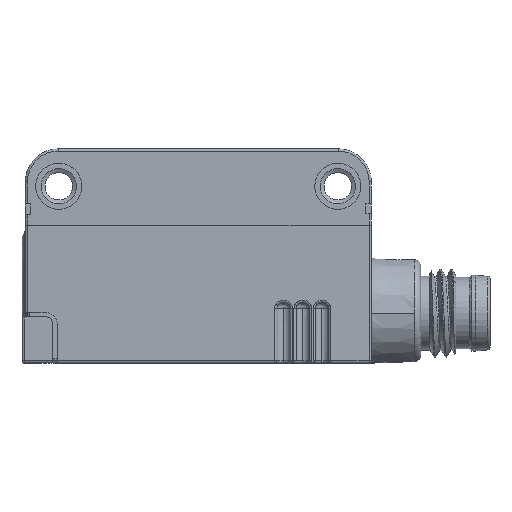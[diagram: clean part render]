
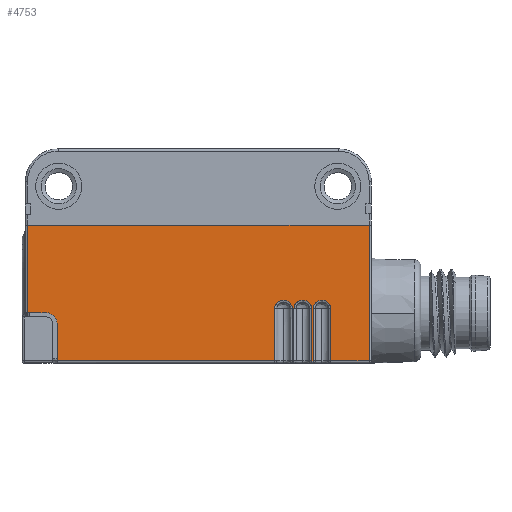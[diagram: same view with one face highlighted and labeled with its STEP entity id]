
A CAD part, left-side view. The second image highlights one B-rep face of the part: STEP entity #4753.
In plain terms, the highlighted planar face has unit normal (-1, 0, 0).
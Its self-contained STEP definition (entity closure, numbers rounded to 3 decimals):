
#760=B_SPLINE_CURVE_WITH_KNOTS('',3,(#61560,#61561,#61562,#61563,#61564,
#61565,#61566,#61567,#61568,#61569,#61570,#61571,#61572,#61573),
 .UNSPECIFIED.,.F.,.F.,(4,2,2,2,2,2,4),(0.,0.125,0.25,0.5,0.75,0.875,1.),
 .UNSPECIFIED.);
#763=B_SPLINE_CURVE_WITH_KNOTS('',3,(#61655,#61656,#61657,#61658,#61659,
#61660,#61661,#61662,#61663,#61664,#61665,#61666,#61667,#61668),
 .UNSPECIFIED.,.F.,.F.,(4,2,2,2,2,2,4),(0.,0.125,0.25,0.5,0.75,0.875,1.),
 .UNSPECIFIED.);
#766=B_SPLINE_CURVE_WITH_KNOTS('',3,(#61750,#61751,#61752,#61753,#61754,
#61755,#61756,#61757,#61758,#61759,#61760,#61761,#61762,#61763),
 .UNSPECIFIED.,.F.,.F.,(4,2,2,2,2,2,4),(0.,0.125,0.25,0.5,0.75,0.875,1.),
 .UNSPECIFIED.);
#3440=CIRCLE('',#42837,1309.533);
#3441=CIRCLE('',#42838,1.);
#4753=ADVANCED_FACE('',(#8107),#6682,.T.);
#6682=PLANE('',#42839);
#8107=FACE_OUTER_BOUND('',#10336,.T.);
#10336=EDGE_LOOP('',(#15704,#15705,#15706,#15707,#15708,#15709,#15710,#15711,
#15712,#15713,#15714,#15715,#15716,#15717,#15718,#15719,#15720,#15721,#15722));
#15704=ORIENTED_EDGE('',*,*,#29960,.F.);
#15705=ORIENTED_EDGE('',*,*,#29961,.F.);
#15706=ORIENTED_EDGE('',*,*,#29962,.F.);
#15707=ORIENTED_EDGE('',*,*,#29963,.T.);
#15708=ORIENTED_EDGE('',*,*,#29780,.T.);
#15709=ORIENTED_EDGE('',*,*,#29782,.T.);
#15710=ORIENTED_EDGE('',*,*,#29787,.T.);
#15711=ORIENTED_EDGE('',*,*,#29789,.T.);
#15712=ORIENTED_EDGE('',*,*,#29793,.T.);
#15713=ORIENTED_EDGE('',*,*,#29795,.T.);
#15714=ORIENTED_EDGE('',*,*,#29800,.T.);
#15715=ORIENTED_EDGE('',*,*,#29802,.T.);
#15716=ORIENTED_EDGE('',*,*,#29806,.T.);
#15717=ORIENTED_EDGE('',*,*,#29808,.T.);
#15718=ORIENTED_EDGE('',*,*,#29813,.T.);
#15719=ORIENTED_EDGE('',*,*,#29815,.T.);
#15720=ORIENTED_EDGE('',*,*,#29818,.T.);
#15721=ORIENTED_EDGE('',*,*,#29536,.F.);
#15722=ORIENTED_EDGE('',*,*,#29775,.T.);
#25371=VERTEX_POINT('',#60731);
#25372=VERTEX_POINT('',#60733);
#25422=VERTEX_POINT('',#61540);
#25423=VERTEX_POINT('',#61544);
#25424=VERTEX_POINT('',#61551);
#25426=VERTEX_POINT('',#61559);
#25427=VERTEX_POINT('',#61629);
#25428=VERTEX_POINT('',#61637);
#25429=VERTEX_POINT('',#61646);
#25431=VERTEX_POINT('',#61654);
#25432=VERTEX_POINT('',#61724);
#25433=VERTEX_POINT('',#61732);
#25434=VERTEX_POINT('',#61741);
#25436=VERTEX_POINT('',#61749);
#25437=VERTEX_POINT('',#61819);
#25438=VERTEX_POINT('',#61827);
#25440=VERTEX_POINT('',#62210);
#25441=VERTEX_POINT('',#62212);
#25442=VERTEX_POINT('',#62214);
#29536=EDGE_CURVE('',#25371,#25372,#34796,.T.);
#29775=EDGE_CURVE('',#25371,#25422,#34954,.T.);
#29780=EDGE_CURVE('',#25423,#25424,#34955,.T.);
#29782=EDGE_CURVE('',#25424,#25426,#760,.T.);
#29787=EDGE_CURVE('',#25426,#25427,#34956,.T.);
#29789=EDGE_CURVE('',#25427,#25428,#34957,.T.);
#29793=EDGE_CURVE('',#25428,#25429,#34958,.T.);
#29795=EDGE_CURVE('',#25429,#25431,#763,.T.);
#29800=EDGE_CURVE('',#25431,#25432,#34959,.T.);
#29802=EDGE_CURVE('',#25432,#25433,#34960,.T.);
#29806=EDGE_CURVE('',#25433,#25434,#34961,.T.);
#29808=EDGE_CURVE('',#25434,#25436,#766,.T.);
#29813=EDGE_CURVE('',#25436,#25437,#34962,.T.);
#29815=EDGE_CURVE('',#25437,#25438,#34963,.T.);
#29818=EDGE_CURVE('',#25438,#25372,#34964,.T.);
#29960=EDGE_CURVE('',#25440,#25422,#3440,.T.);
#29961=EDGE_CURVE('',#25441,#25440,#3441,.T.);
#29962=EDGE_CURVE('',#25442,#25441,#35099,.T.);
#29963=EDGE_CURVE('',#25442,#25423,#35100,.T.);
#34796=LINE('',#60732,#38621);
#34954=LINE('',#61541,#38779);
#34955=LINE('',#61552,#38780);
#34956=LINE('',#61634,#38781);
#34957=LINE('',#61638,#38782);
#34958=LINE('',#61647,#38783);
#34959=LINE('',#61729,#38784);
#34960=LINE('',#61733,#38785);
#34961=LINE('',#61742,#38786);
#34962=LINE('',#61824,#38787);
#34963=LINE('',#61828,#38788);
#34964=LINE('',#61833,#38789);
#35099=LINE('',#62213,#38924);
#35100=LINE('',#62215,#38925);
#38621=VECTOR('',#47115,1.);
#38779=VECTOR('',#47725,1.);
#38780=VECTOR('',#47736,1.);
#38781=VECTOR('',#47747,1.);
#38782=VECTOR('',#47752,1.);
#38783=VECTOR('',#47761,1.);
#38784=VECTOR('',#47772,1.);
#38785=VECTOR('',#47777,1.);
#38786=VECTOR('',#47786,1.);
#38787=VECTOR('',#47797,1.);
#38788=VECTOR('',#47802,1.);
#38789=VECTOR('',#47811,1.);
#38924=VECTOR('',#48230,1.);
#38925=VECTOR('',#48231,1.);
#42837=AXIS2_PLACEMENT_3D('',#62209,#48226,#48227);
#42838=AXIS2_PLACEMENT_3D('',#62211,#48228,#48229);
#42839=AXIS2_PLACEMENT_3D('',#62216,#48232,#48233);
#47115=DIRECTION('',(0.,-1.,0.));
#47725=DIRECTION('',(0.,0.,-1.));
#47736=DIRECTION('',(0.,0.,1.));
#47747=DIRECTION('',(0.,0.,-1.));
#47752=DIRECTION('',(0.,-1.,0.));
#47761=DIRECTION('',(0.,0.,1.));
#47772=DIRECTION('',(0.,0.,-1.));
#47777=DIRECTION('',(0.,-1.,0.));
#47786=DIRECTION('',(0.,0.,1.));
#47797=DIRECTION('',(0.,0.,-1.));
#47802=DIRECTION('',(0.,-1.,0.));
#47811=DIRECTION('',(0.,0.,1.));
#48226=DIRECTION('',(1.,0.,0.));
#48227=DIRECTION('',(0.,1.,0.));
#48228=DIRECTION('',(-1.,0.,0.));
#48229=DIRECTION('',(0.,-1.,0.));
#48230=DIRECTION('',(0.,0.,1.));
#48231=DIRECTION('',(0.,-1.,0.));
#48232=DIRECTION('',(-1.,0.,0.));
#48233=DIRECTION('',(0.,1.,0.));
#60731=CARTESIAN_POINT('',(-5.4,15.55,-6.95));
#60732=CARTESIAN_POINT('',(-5.4,0.,-6.95));
#60733=CARTESIAN_POINT('',(-5.4,-15.55,-6.95));
#61540=CARTESIAN_POINT('',(-5.4,15.55,-14.9));
#61541=CARTESIAN_POINT('',(-5.4,15.55,-10.15));
#61544=CARTESIAN_POINT('',(-5.4,-6.955,-19.3));
#61551=CARTESIAN_POINT('',(-5.4,-6.955,-14.5));
#61552=CARTESIAN_POINT('',(-5.4,-6.955,-16.9));
#61559=CARTESIAN_POINT('',(-5.4,-8.545,-14.5));
#61560=CARTESIAN_POINT('',(-5.4,-6.955,-14.5));
#61561=CARTESIAN_POINT('',(-5.4,-6.955,-14.4));
#61562=CARTESIAN_POINT('',(-5.4,-6.983,-14.303));
#61563=CARTESIAN_POINT('',(-5.4,-7.072,-14.127));
#61564=CARTESIAN_POINT('',(-5.4,-7.135,-14.048));
#61565=CARTESIAN_POINT('',(-5.4,-7.356,-13.852));
#61566=CARTESIAN_POINT('',(-5.4,-7.552,-13.777));
#61567=CARTESIAN_POINT('',(-5.4,-7.947,-13.777));
#61568=CARTESIAN_POINT('',(-5.4,-8.143,-13.85));
#61569=CARTESIAN_POINT('',(-5.4,-8.366,-14.048));
#61570=CARTESIAN_POINT('',(-5.4,-8.427,-14.126));
#61571=CARTESIAN_POINT('',(-5.4,-8.517,-14.303));
#61572=CARTESIAN_POINT('',(-5.4,-8.545,-14.4));
#61573=CARTESIAN_POINT('',(-5.4,-8.545,-14.5));
#61629=CARTESIAN_POINT('',(-5.4,-8.545,-19.3));
#61634=CARTESIAN_POINT('',(-5.4,-8.545,-16.9));
#61637=CARTESIAN_POINT('',(-5.4,-8.705,-19.3));
#61638=CARTESIAN_POINT('',(-5.4,-8.625,-19.3));
#61646=CARTESIAN_POINT('',(-5.4,-8.705,-14.5));
#61647=CARTESIAN_POINT('',(-5.4,-8.705,-16.9));
#61654=CARTESIAN_POINT('',(-5.4,-10.295,-14.5));
#61655=CARTESIAN_POINT('',(-5.4,-8.705,-14.5));
#61656=CARTESIAN_POINT('',(-5.4,-8.705,-14.4));
#61657=CARTESIAN_POINT('',(-5.4,-8.733,-14.303));
#61658=CARTESIAN_POINT('',(-5.4,-8.822,-14.127));
#61659=CARTESIAN_POINT('',(-5.4,-8.885,-14.048));
#61660=CARTESIAN_POINT('',(-5.4,-9.106,-13.852));
#61661=CARTESIAN_POINT('',(-5.4,-9.302,-13.777));
#61662=CARTESIAN_POINT('',(-5.4,-9.697,-13.777));
#61663=CARTESIAN_POINT('',(-5.4,-9.893,-13.85));
#61664=CARTESIAN_POINT('',(-5.4,-10.116,-14.048));
#61665=CARTESIAN_POINT('',(-5.4,-10.177,-14.126));
#61666=CARTESIAN_POINT('',(-5.4,-10.267,-14.303));
#61667=CARTESIAN_POINT('',(-5.4,-10.295,-14.4));
#61668=CARTESIAN_POINT('',(-5.4,-10.295,-14.5));
#61724=CARTESIAN_POINT('',(-5.4,-10.295,-19.3));
#61729=CARTESIAN_POINT('',(-5.4,-10.295,-16.9));
#61732=CARTESIAN_POINT('',(-5.4,-10.455,-19.3));
#61733=CARTESIAN_POINT('',(-5.4,-10.375,-19.3));
#61741=CARTESIAN_POINT('',(-5.4,-10.455,-14.5));
#61742=CARTESIAN_POINT('',(-5.4,-10.455,-16.9));
#61749=CARTESIAN_POINT('',(-5.4,-12.045,-14.5));
#61750=CARTESIAN_POINT('',(-5.4,-10.455,-14.5));
#61751=CARTESIAN_POINT('',(-5.4,-10.455,-14.4));
#61752=CARTESIAN_POINT('',(-5.4,-10.483,-14.303));
#61753=CARTESIAN_POINT('',(-5.4,-10.572,-14.127));
#61754=CARTESIAN_POINT('',(-5.4,-10.635,-14.048));
#61755=CARTESIAN_POINT('',(-5.4,-10.856,-13.852));
#61756=CARTESIAN_POINT('',(-5.4,-11.052,-13.777));
#61757=CARTESIAN_POINT('',(-5.4,-11.447,-13.777));
#61758=CARTESIAN_POINT('',(-5.4,-11.643,-13.85));
#61759=CARTESIAN_POINT('',(-5.4,-11.866,-14.048));
#61760=CARTESIAN_POINT('',(-5.4,-11.927,-14.126));
#61761=CARTESIAN_POINT('',(-5.4,-12.017,-14.303));
#61762=CARTESIAN_POINT('',(-5.4,-12.045,-14.4));
#61763=CARTESIAN_POINT('',(-5.4,-12.045,-14.5));
#61819=CARTESIAN_POINT('',(-5.4,-12.045,-19.3));
#61824=CARTESIAN_POINT('',(-5.4,-12.045,-16.9));
#61827=CARTESIAN_POINT('',(-5.4,-15.55,-19.3));
#61828=CARTESIAN_POINT('',(-5.4,-13.798,-19.3));
#61833=CARTESIAN_POINT('',(-5.4,-15.55,-13.15));
#62209=CARTESIAN_POINT('',(-5.4,14.985,1294.633));
#62210=CARTESIAN_POINT('',(-5.4,13.851,-14.9));
#62211=CARTESIAN_POINT('',(-5.4,13.85,-15.9));
#62212=CARTESIAN_POINT('',(-5.4,12.85,-15.9));
#62213=CARTESIAN_POINT('',(-5.4,12.85,-14.898));
#62214=CARTESIAN_POINT('',(-5.4,12.85,-19.3));
#62215=CARTESIAN_POINT('',(-5.4,2.473,-19.3));
#62216=CARTESIAN_POINT('',(-5.4,15.75,-7.));
